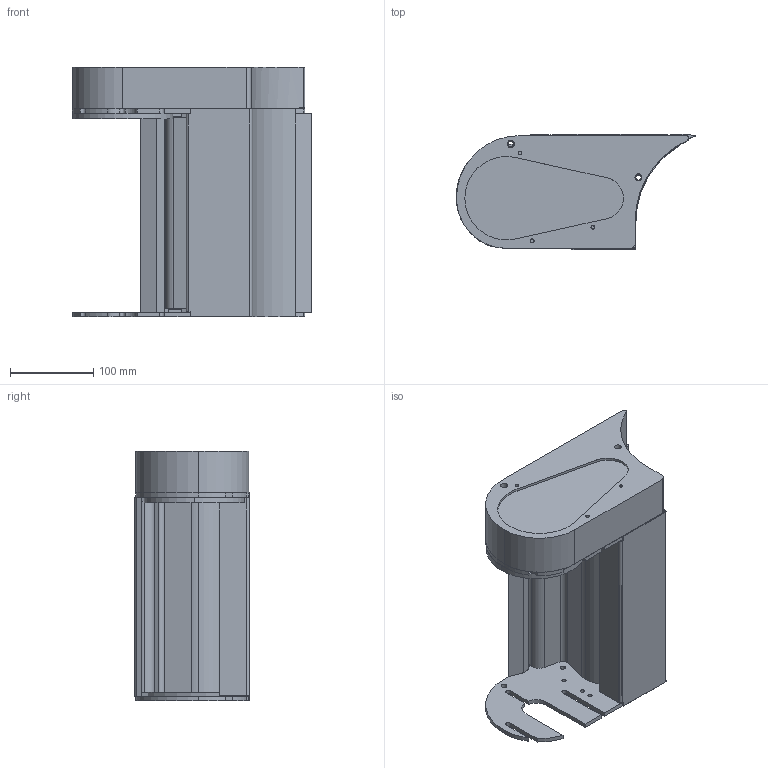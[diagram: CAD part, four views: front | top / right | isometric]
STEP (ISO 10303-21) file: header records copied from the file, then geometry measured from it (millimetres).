
FILE_DESCRIPTION (( 'STEP AP214' ), '1' );
FILE_NAME ('F2 750 TMDM NTB.step', '2017-04-05T07:35:28', ( '' ), ( '' ), 'SwSTEP 2.0', 'SolidWorks 2015', '' );
FILE_SCHEMA (( 'AUTOMOTIVE_DESIGN' ));
Length unit declared in the file: millimetre
Products named in the file (1): F2 750 TMDM NTB
Bounding box: 286.35 x 137.58 x 299 mm (x, y, z)
Volume: 2844562.1 mm3; surface area: 565077.9 mm2
Topology: 9 solids, 9 shells, 376 faces, 1066 edges, 710 vertices
Faces by surface type: cylinder 203, plane 173
Entity records: 12803 total; most frequent: DIRECTION 2230, CARTESIAN_POINT 2153, ORIENTED_EDGE 2132, EDGE_CURVE 1066, AXIS2_PLACEMENT_3D 787, VERTEX_POINT 710, LINE 656, VECTOR 656
